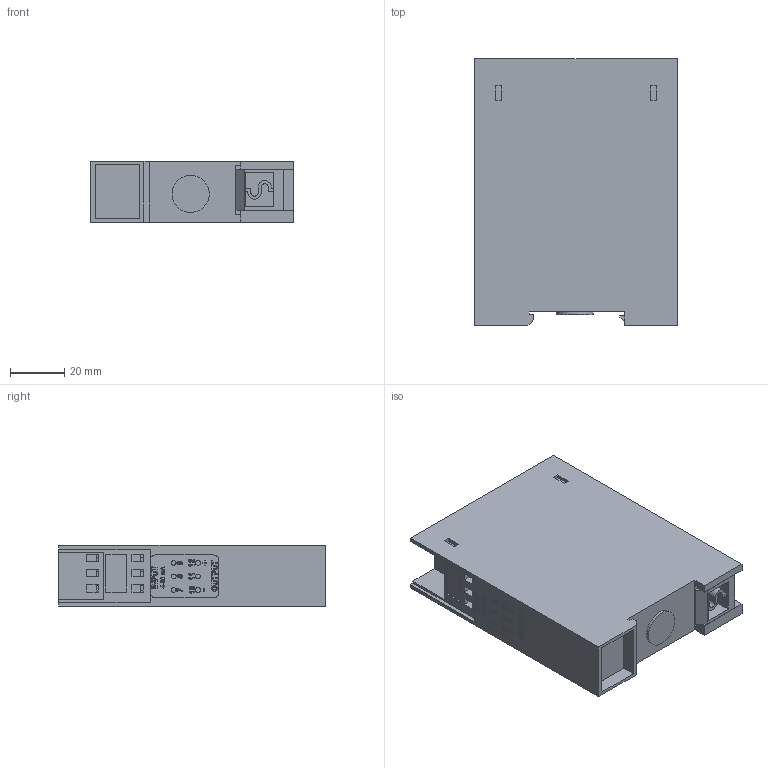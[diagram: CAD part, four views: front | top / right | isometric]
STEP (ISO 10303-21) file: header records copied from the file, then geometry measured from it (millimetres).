
FILE_DESCRIPTION(/* description */ (''),/* implementation_level */ '2;1');
FILE_NAME(/* name */ 'S:\Projects\I_I_Converters\Mechanical\REV 3\ICDR12.stp',/* time_stamp */ '2017-09-28T17:58:24-04:00',/* author */ ('tfisher'),/* organization */ (''),/* preprocessor_version */ 'ST-DEVELOPER v15.2',/* originating_system */ 'Autodesk Inventor 2014',/* authorisation */ '');
FILE_SCHEMA (('AUTOMOTIVE_DESIGN { 1 0 10303 214 3 1 1 }'));
Products named in the file (1): FG-IIC-0000010 for STEP_Shrinkwrap_1
Bounding box: 75.11 x 98.55 x 22.63 mm (x, y, z)
Volume: 53967.1 mm3; surface area: 49130 mm2
Topology: 1 solids, 4 shells, 5868 faces, 15529 edges, 10364 vertices
Faces by surface type: plane 3831, bspline 1821, cylinder 216
Full cylindrical faces by diameter (mm): 0.711 x30, 0.864 x16, 1.016 x23, 1.087 x2, 1.118 x14, 1.27 x2, 1.5 x4, 1.524 x3, 1.75 x12, 2.743 x4, 3.15 x2, 3.5 x12, 13.75 x1
Entity records: 190437 total; most frequent: CARTESIAN_POINT 54773, ORIENTED_EDGE 30612, DIRECTION 20143, EDGE_CURVE 15306, LINE 11275, VECTOR 11275, VERTEX_POINT 10266, EDGE_LOOP 6736
